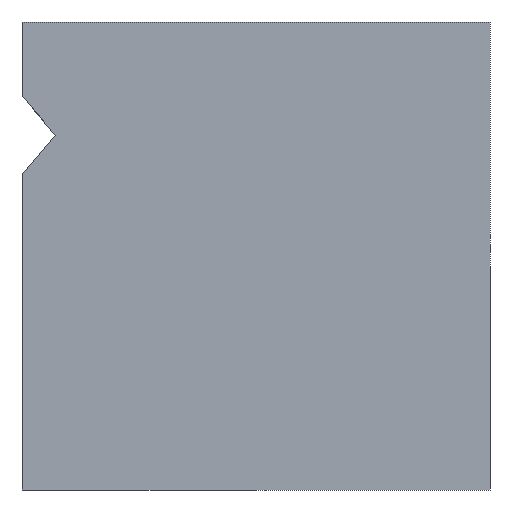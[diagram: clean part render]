
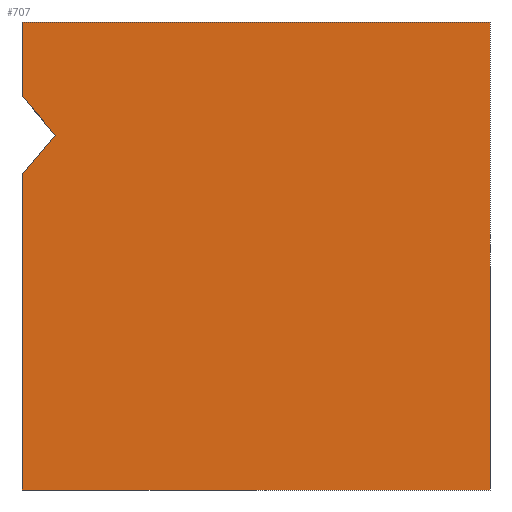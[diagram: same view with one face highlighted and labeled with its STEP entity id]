
A CAD part, left-side view. The second image highlights one B-rep face of the part: STEP entity #707.
In plain terms, the highlighted planar face has unit normal (-1, 0, 0).
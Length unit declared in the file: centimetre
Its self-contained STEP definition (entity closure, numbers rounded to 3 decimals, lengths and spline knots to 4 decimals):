
#15 = ORIENTED_EDGE ( 'NONE', *, *, #883, .T. ) ;
#58 = VECTOR ( 'NONE', #1041, 100. ) ;
#68 = EDGE_CURVE ( 'NONE', #709, #245, #181, .T. ) ;
#84 = VERTEX_POINT ( 'NONE', #97 ) ;
#94 = ORIENTED_EDGE ( 'NONE', *, *, #252, .T. ) ;
#97 = CARTESIAN_POINT ( 'NONE',  ( 0., 0., 0. ) ) ;
#119 = LINE ( 'NONE', #539, #58 ) ;
#157 = VERTEX_POINT ( 'NONE', #1004 ) ;
#163 = ORIENTED_EDGE ( 'NONE', *, *, #68, .T. ) ;
#181 = LINE ( 'NONE', #1025, #576 ) ;
#193 = LINE ( 'NONE', #283, #224 ) ;
#218 = DIRECTION ( 'NONE',  ( 0., 0., -1. ) ) ;
#224 = VECTOR ( 'NONE', #1012, 100. ) ;
#227 = ORIENTED_EDGE ( 'NONE', *, *, #815, .F. ) ;
#245 = VERTEX_POINT ( 'NONE', #453 ) ;
#248 = EDGE_CURVE ( 'NONE', #277, #84, #119, .T. ) ;
#252 = EDGE_CURVE ( 'NONE', #605, #973, #545, .T. ) ;
#277 = VERTEX_POINT ( 'NONE', #861 ) ;
#283 = CARTESIAN_POINT ( 'NONE',  ( 0., 929.1602, 758.1048 ) ) ;
#337 = CARTESIAN_POINT ( 'NONE',  ( 0., 1000., 1000. ) ) ;
#344 = ORIENTED_EDGE ( 'NONE', *, *, #957, .T. ) ;
#345 = CARTESIAN_POINT ( 'NONE',  ( 0., 1000., 1000. ) ) ;
#363 = DIRECTION ( 'NONE',  ( 0., 0.642, -0.767 ) ) ;
#396 = VECTOR ( 'NONE', #421, 100. ) ;
#413 = FACE_OUTER_BOUND ( 'NONE', #581, .T. ) ;
#421 = DIRECTION ( 'NONE',  ( 0., -1., 0. ) ) ;
#434 = CARTESIAN_POINT ( 'NONE',  ( 0., 1000., 0. ) ) ;
#453 = CARTESIAN_POINT ( 'NONE',  ( 0., 1000., 673.4993 ) ) ;
#469 = CARTESIAN_POINT ( 'NONE',  ( 0., 1000., 1000. ) ) ;
#494 = DIRECTION ( 'NONE',  ( 1., 0., 0. ) ) ;
#519 = ORIENTED_EDGE ( 'NONE', *, *, #248, .F. ) ;
#537 = CARTESIAN_POINT ( 'NONE',  ( 0., 1000., 842.7104 ) ) ;
#539 = CARTESIAN_POINT ( 'NONE',  ( 0., 0., 1000. ) ) ;
#545 = LINE ( 'NONE', #853, #944 ) ;
#548 = AXIS2_PLACEMENT_3D ( 'NONE', #337, #494, #658 ) ;
#576 = VECTOR ( 'NONE', #363, 100. ) ;
#581 = EDGE_LOOP ( 'NONE', ( #984, #163, #344, #15, #519, #227, #94 ) ) ;
#586 = LINE ( 'NONE', #434, #897 ) ;
#605 = VERTEX_POINT ( 'NONE', #469 ) ;
#658 = DIRECTION ( 'NONE',  ( 0., 0., -1. ) ) ;
#695 = CARTESIAN_POINT ( 'NONE',  ( 0., 1000., 1000. ) ) ;
#707 = ADVANCED_FACE ( 'NONE', ( #413 ), #1075, .F. ) ;
#709 = VERTEX_POINT ( 'NONE', #729 ) ;
#729 = CARTESIAN_POINT ( 'NONE',  ( 0., 929.1602, 758.1048 ) ) ;
#751 = DIRECTION ( 'NONE',  ( 0., -1., 0. ) ) ;
#753 = VECTOR ( 'NONE', #865, 100. ) ;
#815 = EDGE_CURVE ( 'NONE', #605, #277, #922, .T. ) ;
#853 = CARTESIAN_POINT ( 'NONE',  ( 0., 1000., 1000. ) ) ;
#861 = CARTESIAN_POINT ( 'NONE',  ( 0., 0., 1000. ) ) ;
#865 = DIRECTION ( 'NONE',  ( 0., 0., -1. ) ) ;
#883 = EDGE_CURVE ( 'NONE', #157, #84, #586, .T. ) ;
#894 = EDGE_CURVE ( 'NONE', #973, #709, #193, .T. ) ;
#897 = VECTOR ( 'NONE', #751, 100. ) ;
#922 = LINE ( 'NONE', #345, #396 ) ;
#941 = LINE ( 'NONE', #695, #753 ) ;
#944 = VECTOR ( 'NONE', #218, 100. ) ;
#957 = EDGE_CURVE ( 'NONE', #245, #157, #941, .T. ) ;
#973 = VERTEX_POINT ( 'NONE', #537 ) ;
#984 = ORIENTED_EDGE ( 'NONE', *, *, #894, .T. ) ;
#1004 = CARTESIAN_POINT ( 'NONE',  ( 0., 1000., 0. ) ) ;
#1012 = DIRECTION ( 'NONE',  ( 0., -0.642, -0.767 ) ) ;
#1025 = CARTESIAN_POINT ( 'NONE',  ( 0., 1000., 673.4993 ) ) ;
#1041 = DIRECTION ( 'NONE',  ( 0., 0., -1. ) ) ;
#1075 = PLANE ( 'NONE',  #548 ) ;
